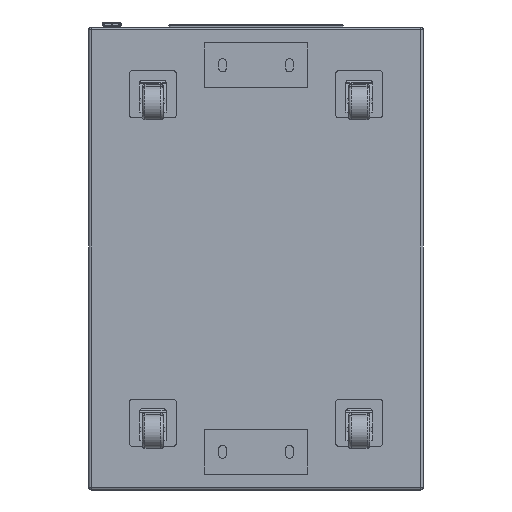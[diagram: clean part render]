
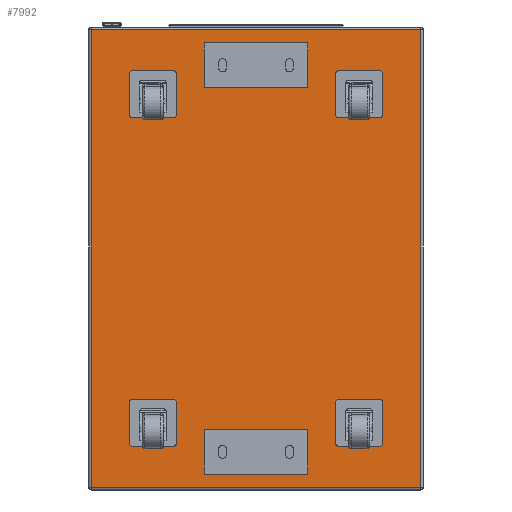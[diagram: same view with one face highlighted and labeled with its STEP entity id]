
A CAD part, front view. The second image highlights one B-rep face of the part: STEP entity #7992.
In plain terms, the highlighted planar face has unit normal (0, -1, 0).
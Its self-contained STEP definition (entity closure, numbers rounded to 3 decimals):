
#121=FACE_BOUND('',#2675,.T.);
#122=FACE_BOUND('',#2676,.T.);
#123=FACE_BOUND('',#2677,.T.);
#124=FACE_BOUND('',#2678,.T.);
#125=FACE_BOUND('',#2679,.T.);
#126=FACE_BOUND('',#2680,.T.);
#164=PLANE('',#8653);
#437=LINE('',#12114,#1226);
#439=LINE('',#12117,#1228);
#447=LINE('',#12129,#1236);
#452=LINE('',#12137,#1241);
#460=LINE('',#12151,#1249);
#461=LINE('',#12153,#1250);
#462=LINE('',#12155,#1251);
#463=LINE('',#12156,#1252);
#464=LINE('',#12159,#1253);
#465=LINE('',#12161,#1254);
#466=LINE('',#12163,#1255);
#467=LINE('',#12164,#1256);
#1226=VECTOR('',#9564,10.);
#1228=VECTOR('',#9568,10.);
#1236=VECTOR('',#9584,10.);
#1241=VECTOR('',#9595,10.);
#1249=VECTOR('',#9611,10.);
#1250=VECTOR('',#9612,10.);
#1251=VECTOR('',#9613,10.);
#1252=VECTOR('',#9614,10.);
#1253=VECTOR('',#9615,10.);
#1254=VECTOR('',#9616,10.);
#1255=VECTOR('',#9617,10.);
#1256=VECTOR('',#9618,10.);
#2208=FACE_OUTER_BOUND('',#2674,.T.);
#2674=EDGE_LOOP('',(#5626,#5627,#5628,#5629));
#2675=EDGE_LOOP('',(#5630,#5631,#5632,#5633));
#2676=EDGE_LOOP('',(#5634,#5635,#5636,#5637));
#2677=EDGE_LOOP('',(#5638));
#2678=EDGE_LOOP('',(#5639));
#2679=EDGE_LOOP('',(#5640));
#2680=EDGE_LOOP('',(#5641));
#3187=CIRCLE('',#8654,5.);
#3188=CIRCLE('',#8655,5.);
#3189=CIRCLE('',#8656,5.);
#3190=CIRCLE('',#8657,5.);
#3564=VERTEX_POINT('',#12064);
#3573=VERTEX_POINT('',#12085);
#3578=VERTEX_POINT('',#12095);
#3584=VERTEX_POINT('',#12109);
#3585=VERTEX_POINT('',#12149);
#3586=VERTEX_POINT('',#12150);
#3587=VERTEX_POINT('',#12152);
#3588=VERTEX_POINT('',#12154);
#3589=VERTEX_POINT('',#12157);
#3590=VERTEX_POINT('',#12158);
#3591=VERTEX_POINT('',#12160);
#3592=VERTEX_POINT('',#12162);
#3593=VERTEX_POINT('',#12165);
#3594=VERTEX_POINT('',#12167);
#3595=VERTEX_POINT('',#12169);
#3596=VERTEX_POINT('',#12171);
#4374=EDGE_CURVE('',#3573,#3584,#437,.T.);
#4376=EDGE_CURVE('',#3584,#3578,#439,.T.);
#4384=EDGE_CURVE('',#3578,#3564,#447,.T.);
#4389=EDGE_CURVE('',#3564,#3573,#452,.T.);
#4397=EDGE_CURVE('',#3585,#3586,#460,.T.);
#4398=EDGE_CURVE('',#3586,#3587,#461,.T.);
#4399=EDGE_CURVE('',#3587,#3588,#462,.T.);
#4400=EDGE_CURVE('',#3588,#3585,#463,.T.);
#4401=EDGE_CURVE('',#3589,#3590,#464,.T.);
#4402=EDGE_CURVE('',#3590,#3591,#465,.T.);
#4403=EDGE_CURVE('',#3591,#3592,#466,.T.);
#4404=EDGE_CURVE('',#3592,#3589,#467,.T.);
#4405=EDGE_CURVE('',#3593,#3593,#3187,.T.);
#4406=EDGE_CURVE('',#3594,#3594,#3188,.T.);
#4407=EDGE_CURVE('',#3595,#3595,#3189,.T.);
#4408=EDGE_CURVE('',#3596,#3596,#3190,.T.);
#5626=ORIENTED_EDGE('',*,*,#4374,.F.);
#5627=ORIENTED_EDGE('',*,*,#4389,.F.);
#5628=ORIENTED_EDGE('',*,*,#4384,.F.);
#5629=ORIENTED_EDGE('',*,*,#4376,.F.);
#5630=ORIENTED_EDGE('',*,*,#4397,.T.);
#5631=ORIENTED_EDGE('',*,*,#4398,.T.);
#5632=ORIENTED_EDGE('',*,*,#4399,.T.);
#5633=ORIENTED_EDGE('',*,*,#4400,.T.);
#5634=ORIENTED_EDGE('',*,*,#4401,.T.);
#5635=ORIENTED_EDGE('',*,*,#4402,.T.);
#5636=ORIENTED_EDGE('',*,*,#4403,.T.);
#5637=ORIENTED_EDGE('',*,*,#4404,.T.);
#5638=ORIENTED_EDGE('',*,*,#4405,.T.);
#5639=ORIENTED_EDGE('',*,*,#4406,.T.);
#5640=ORIENTED_EDGE('',*,*,#4407,.T.);
#5641=ORIENTED_EDGE('',*,*,#4408,.T.);
#7992=ADVANCED_FACE('',(#2208,#121,#122,#123,#124,#125,#126),#164,.T.);
#8653=AXIS2_PLACEMENT_3D('',#12148,#9609,#9610);
#8654=AXIS2_PLACEMENT_3D('',#12166,#9619,#9620);
#8655=AXIS2_PLACEMENT_3D('',#12168,#9621,#9622);
#8656=AXIS2_PLACEMENT_3D('',#12170,#9623,#9624);
#8657=AXIS2_PLACEMENT_3D('',#12172,#9625,#9626);
#9564=DIRECTION('',(1.,0.,0.));
#9568=DIRECTION('',(0.,0.,-1.));
#9584=DIRECTION('',(-1.,0.,0.));
#9595=DIRECTION('',(0.,0.,1.));
#9609=DIRECTION('center_axis',(0.,-1.,0.));
#9610=DIRECTION('ref_axis',(-1.,0.,0.));
#9611=DIRECTION('',(0.,0.,1.));
#9612=DIRECTION('',(1.,0.,0.));
#9613=DIRECTION('',(0.,0.,-1.));
#9614=DIRECTION('',(-1.,0.,0.));
#9615=DIRECTION('',(0.,0.,1.));
#9616=DIRECTION('',(1.,0.,0.));
#9617=DIRECTION('',(0.,0.,-1.));
#9618=DIRECTION('',(-1.,0.,0.));
#9619=DIRECTION('center_axis',(0.,1.,0.));
#9620=DIRECTION('ref_axis',(1.,0.,0.));
#9621=DIRECTION('center_axis',(0.,1.,0.));
#9622=DIRECTION('ref_axis',(1.,0.,0.));
#9623=DIRECTION('center_axis',(0.,1.,0.));
#9624=DIRECTION('ref_axis',(1.,0.,0.));
#9625=DIRECTION('center_axis',(0.,1.,0.));
#9626=DIRECTION('ref_axis',(1.,0.,0.));
#12064=CARTESIAN_POINT('',(-295.,-958.,-825.));
#12085=CARTESIAN_POINT('',(-295.,-958.,-5.));
#12095=CARTESIAN_POINT('',(295.,-958.,-825.));
#12109=CARTESIAN_POINT('',(295.,-958.,-5.));
#12114=CARTESIAN_POINT('',(150.,-958.,-5.));
#12117=CARTESIAN_POINT('',(295.,-958.,0.));
#12129=CARTESIAN_POINT('',(150.,-958.,-825.));
#12137=CARTESIAN_POINT('',(-295.,-958.,0.));
#12148=CARTESIAN_POINT('Origin',(300.,-958.,0.));
#12149=CARTESIAN_POINT('',(-92.5,-958.,-108.5));
#12150=CARTESIAN_POINT('',(-92.5,-958.,-28.5));
#12151=CARTESIAN_POINT('',(-92.5,-958.,-14.25));
#12152=CARTESIAN_POINT('',(92.5,-958.,-28.5));
#12153=CARTESIAN_POINT('',(196.25,-958.,-28.5));
#12154=CARTESIAN_POINT('',(92.5,-958.,-108.5));
#12155=CARTESIAN_POINT('',(92.5,-958.,-54.25));
#12156=CARTESIAN_POINT('',(103.75,-958.,-108.5));
#12157=CARTESIAN_POINT('',(-92.5,-958.,-801.5));
#12158=CARTESIAN_POINT('',(-92.5,-958.,-721.5));
#12159=CARTESIAN_POINT('',(-92.5,-958.,-360.75));
#12160=CARTESIAN_POINT('',(92.5,-958.,-721.5));
#12161=CARTESIAN_POINT('',(196.25,-958.,-721.5));
#12162=CARTESIAN_POINT('',(92.5,-958.,-801.5));
#12163=CARTESIAN_POINT('',(92.5,-958.,-400.75));
#12164=CARTESIAN_POINT('',(103.75,-958.,-801.5));
#12165=CARTESIAN_POINT('',(-190.,-958.,-120.5));
#12166=CARTESIAN_POINT('Origin',(-185.,-958.,-120.5));
#12167=CARTESIAN_POINT('',(-190.,-958.,-709.5));
#12168=CARTESIAN_POINT('Origin',(-185.,-958.,-709.5));
#12169=CARTESIAN_POINT('',(180.,-958.,-120.5));
#12170=CARTESIAN_POINT('Origin',(185.,-958.,-120.5));
#12171=CARTESIAN_POINT('',(180.,-958.,-709.5));
#12172=CARTESIAN_POINT('Origin',(185.,-958.,-709.5));
